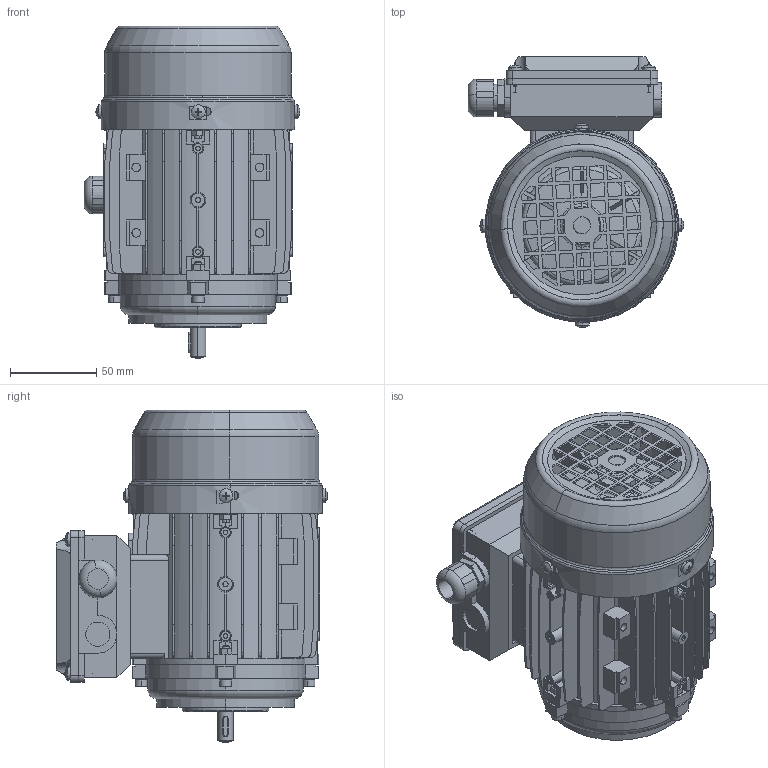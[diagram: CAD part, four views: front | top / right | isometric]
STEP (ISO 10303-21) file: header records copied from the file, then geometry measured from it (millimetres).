
FILE_DESCRIPTION (( 'STEP AP214' ), '1' );
FILE_NAME ('JM 56 B14 IE1-IE2_X.STEP', '2025-12-19T15:54:18', ( '' ), ( '' ), 'SwSTEP 2.0', 'SolidWorks 2025', '' );
FILE_SCHEMA (( 'AUTOMOTIVE_DESIGN' ));
Length unit declared in the file: millimetre
Products named in the file (4): Flangia JM 56 B14; Corpo motore JM 56 B14; Anello di tenuta; JM 56 B14 IE1-IE2_X
Assembly tree (3 placements, depth 2):
  JM 56 B14 IE1-IE2_X
    Corpo motore JM 56 B14
    Flangia JM 56 B14
    Anello di tenuta
Bounding box: 125.13 x 157.13 x 192.46 mm (x, y, z)
Volume: 456089.9 mm3; surface area: 378308.5 mm2
Topology: 47 solids, 47 shells, 2949 faces, 7541 edges, 4813 vertices
Faces by surface type: plane 1483, cone 680, cylinder 648, torus 126, sphere 12
Entity records: 97713 total; most frequent: CARTESIAN_POINT 24292, DIRECTION 15303, ORIENTED_EDGE 15078, EDGE_CURVE 7539, AXIS2_PLACEMENT_3D 5451, VERTEX_POINT 4812, LINE 4401, VECTOR 4401
